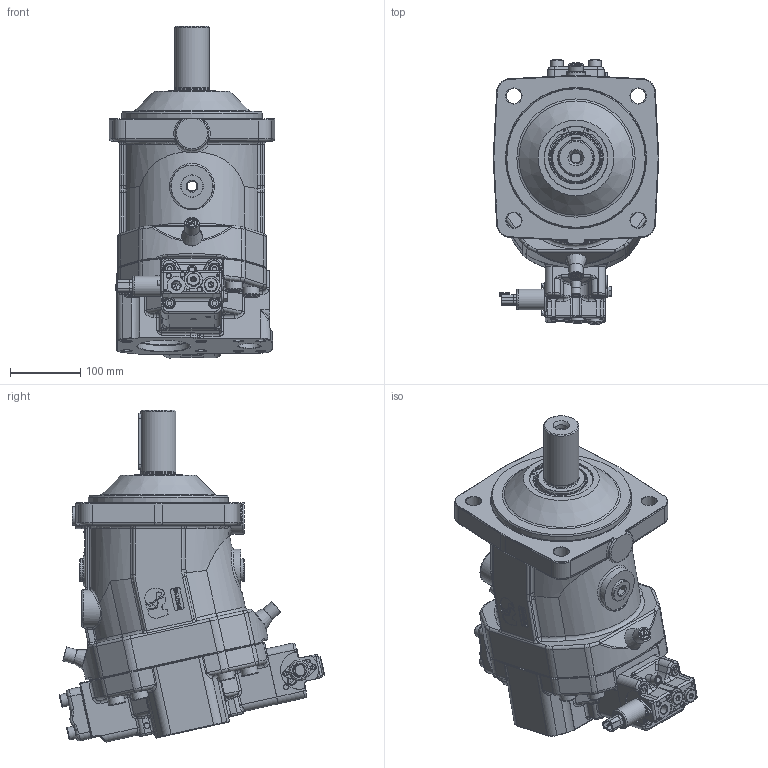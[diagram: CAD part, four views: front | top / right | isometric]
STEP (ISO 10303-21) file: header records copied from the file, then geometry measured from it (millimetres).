
FILE_DESCRIPTION (( 'STEP AP203' ), '1' );
FILE_NAME ('K14VO200EP2／10R-VPB03P液压泵.STEP', '2022-11-15T07:41:18', ( '' ), ( '' ), 'SwSTEP 2.0', 'SolidWorks 2015', '' );
FILE_SCHEMA (( 'CONFIG_CONTROL_DESIGN' ));
Length unit declared in the file: millimetre
Products named in the file (1): K14VO200EP2／10R-VPB03P液压泵
Bounding box: 235.7 x 377.59 x 472.74 mm (x, y, z)
Surface area: 596955 mm2 (no closed solid volume)
Topology: 0 solids, 83 shells, 1559 faces, 4910 edges, 3313 vertices
Faces by surface type: plane 563, cylinder 439, bspline 210, cone 163, torus 156, sphere 28
Full cylindrical faces by diameter (mm): 2 x1, 2.437 x2, 7 x2, 12 x8, 12.5 x1, 13 x5, 13.5 x1, 14 x6, 14.5 x2, 16 x1, 17 x6, 18 x4, 19 x4, 20.5 x2, 21 x4, 21.5 x1, 22 x4, 24 x8, 26 x8, 27 x1, 28.5 x1, 29.3 x2, 31 x2, 32 x4, 35 x1, 35.5 x1, 49.6 x1, 50 x1, 70 x1, 75 x1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
Entity records: 74488 total; most frequent: CARTESIAN_POINT 35014, DIRECTION 7688, ORIENTED_EDGE 7563, EDGE_CURVE 4563, VERTEX_POINT 3223, AXIS2_PLACEMENT_3D 2804, VECTOR 2080, LINE 2080
